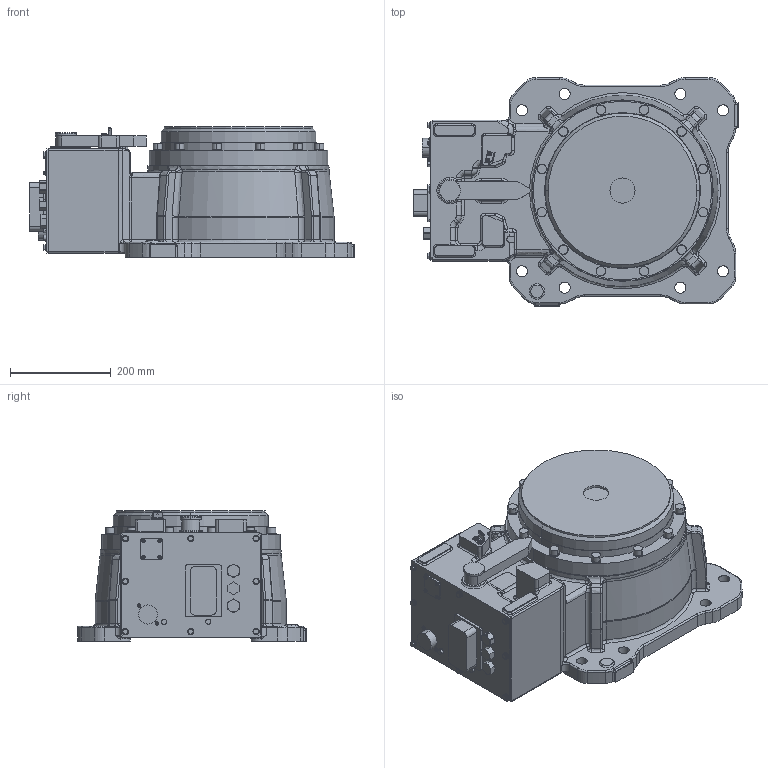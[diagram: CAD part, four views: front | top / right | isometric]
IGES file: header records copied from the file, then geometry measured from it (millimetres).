
Start section:  PTC IGES file: base_gp20hl.igs
Global section: file name: base_gp20hl.igs; native system: Creo Parametric by Parametric Technology Corporation; preprocessor: 2015030; author: ip-naka; organization: Unknown; date: 20190410.110639; units: millimetre
Bounding box: 644.85 x 455 x 259 mm (x, y, z)
Volume: 38920083.5 mm3; surface area: 989109.3 mm2
Topology: 1 solids, 1 shells, 1364 faces, 3305 edges, 2022 vertices
Faces by surface type: revolution 764, bspline 600
